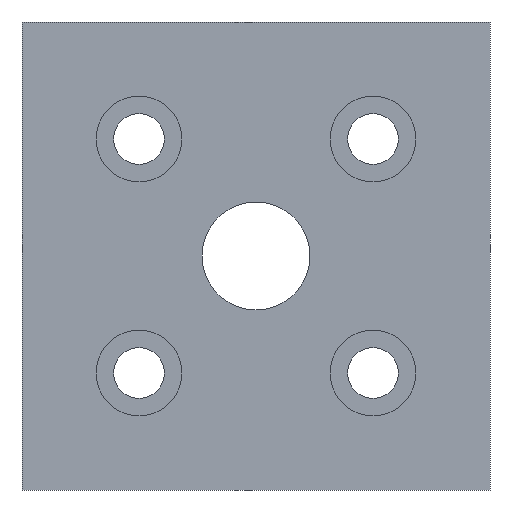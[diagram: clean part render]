
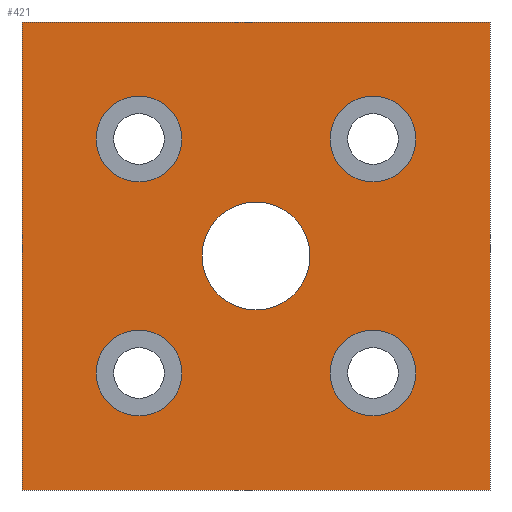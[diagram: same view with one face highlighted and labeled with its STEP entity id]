
A CAD part, front view. The second image highlights one B-rep face of the part: STEP entity #421.
In plain terms, the highlighted planar face has unit normal (0, -1, 0).
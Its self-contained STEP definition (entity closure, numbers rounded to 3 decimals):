
#34=CIRCLE('',#451,6.918);
#35=CIRCLE('',#452,5.5);
#36=CIRCLE('',#453,5.5);
#37=CIRCLE('',#454,5.5);
#38=CIRCLE('',#455,5.5);
#72=ORIENTED_EDGE('',*,*,#124,.T.);
#73=ORIENTED_EDGE('',*,*,#125,.T.);
#74=ORIENTED_EDGE('',*,*,#126,.T.);
#75=ORIENTED_EDGE('',*,*,#127,.T.);
#76=ORIENTED_EDGE('',*,*,#128,.T.);
#77=ORIENTED_EDGE('',*,*,#107,.F.);
#78=ORIENTED_EDGE('',*,*,#117,.F.);
#79=ORIENTED_EDGE('',*,*,#114,.F.);
#80=ORIENTED_EDGE('',*,*,#111,.F.);
#107=EDGE_CURVE('',#137,#138,#163,.T.);
#111=EDGE_CURVE('',#138,#141,#167,.T.);
#114=EDGE_CURVE('',#141,#143,#170,.T.);
#117=EDGE_CURVE('',#143,#137,#173,.T.);
#124=EDGE_CURVE('',#150,#150,#34,.T.);
#125=EDGE_CURVE('',#151,#151,#35,.T.);
#126=EDGE_CURVE('',#152,#152,#36,.T.);
#127=EDGE_CURVE('',#153,#153,#37,.T.);
#128=EDGE_CURVE('',#154,#154,#38,.T.);
#137=VERTEX_POINT('',#568);
#138=VERTEX_POINT('',#569);
#141=VERTEX_POINT('',#577);
#143=VERTEX_POINT('',#583);
#150=VERTEX_POINT('',#603);
#151=VERTEX_POINT('',#605);
#152=VERTEX_POINT('',#607);
#153=VERTEX_POINT('',#609);
#154=VERTEX_POINT('',#611);
#163=LINE('',#567,#175);
#167=LINE('',#576,#179);
#170=LINE('',#582,#182);
#173=LINE('',#588,#185);
#175=VECTOR('',#481,1000.);
#179=VECTOR('',#487,1000.);
#182=VECTOR('',#492,1000.);
#185=VECTOR('',#497,1000.);
#197=EDGE_LOOP('',(#72));
#198=EDGE_LOOP('',(#73));
#199=EDGE_LOOP('',(#74));
#200=EDGE_LOOP('',(#75));
#201=EDGE_LOOP('',(#76));
#202=EDGE_LOOP('',(#77,#78,#79,#80));
#239=FACE_BOUND('',#197,.T.);
#240=FACE_BOUND('',#198,.T.);
#241=FACE_BOUND('',#199,.T.);
#242=FACE_BOUND('',#200,.T.);
#243=FACE_BOUND('',#201,.T.);
#244=FACE_BOUND('',#202,.T.);
#276=PLANE('',#450);
#421=ADVANCED_FACE('',(#239,#240,#241,#242,#243,#244),#276,.F.);
#450=AXIS2_PLACEMENT_3D('',#601,#511,#512);
#451=AXIS2_PLACEMENT_3D('',#602,#513,#514);
#452=AXIS2_PLACEMENT_3D('',#604,#515,#516);
#453=AXIS2_PLACEMENT_3D('',#606,#517,#518);
#454=AXIS2_PLACEMENT_3D('',#608,#519,#520);
#455=AXIS2_PLACEMENT_3D('',#610,#521,#522);
#481=DIRECTION('',(0.,0.,1.));
#487=DIRECTION('',(1.,0.,0.));
#492=DIRECTION('',(0.,0.,-1.));
#497=DIRECTION('',(-1.,0.,0.));
#511=DIRECTION('',(0.,1.,0.));
#512=DIRECTION('',(0.,0.,1.));
#513=DIRECTION('',(0.,1.,0.));
#514=DIRECTION('',(0.,0.,-1.));
#515=DIRECTION('',(0.,1.,0.));
#516=DIRECTION('',(0.,0.,-1.));
#517=DIRECTION('',(0.,1.,0.));
#518=DIRECTION('',(0.,0.,-1.));
#519=DIRECTION('',(0.,1.,0.));
#520=DIRECTION('',(0.,0.,-1.));
#521=DIRECTION('',(0.,1.,0.));
#522=DIRECTION('',(0.,0.,-1.));
#567=CARTESIAN_POINT('',(0.,0.,0.));
#568=CARTESIAN_POINT('',(0.,0.,0.));
#569=CARTESIAN_POINT('',(0.,0.,60.));
#576=CARTESIAN_POINT('',(0.,0.,60.));
#577=CARTESIAN_POINT('',(60.,0.,60.));
#582=CARTESIAN_POINT('',(60.,0.,60.));
#583=CARTESIAN_POINT('',(60.,0.,0.));
#588=CARTESIAN_POINT('',(60.,0.,0.));
#601=CARTESIAN_POINT('',(0.,0.,0.));
#602=CARTESIAN_POINT('',(30.,0.,30.));
#603=CARTESIAN_POINT('',(30.,0.,23.083));
#604=CARTESIAN_POINT('',(15.,0.,15.));
#605=CARTESIAN_POINT('',(15.,0.,9.5));
#606=CARTESIAN_POINT('',(45.,0.,15.));
#607=CARTESIAN_POINT('',(45.,0.,9.5));
#608=CARTESIAN_POINT('',(45.,0.,45.));
#609=CARTESIAN_POINT('',(45.,0.,39.5));
#610=CARTESIAN_POINT('',(15.,0.,45.));
#611=CARTESIAN_POINT('',(15.,0.,39.5));
